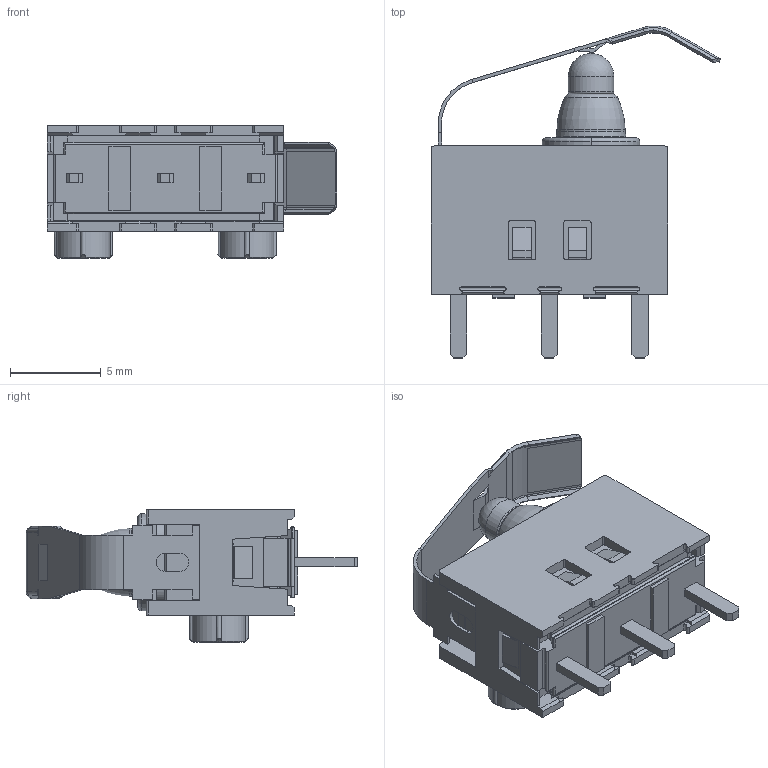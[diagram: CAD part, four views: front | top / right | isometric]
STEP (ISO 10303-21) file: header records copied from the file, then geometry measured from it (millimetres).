
FILE_DESCRIPTION (( 'STEP AP214' ), '1' );
FILE_NAME ('SPVQ370300.STEP', '2011-03-22T00:40:02', ( '' ), ( '' ), 'SwSTEP 2.0', 'SolidWorks 2007', '' );
FILE_SCHEMA (( 'AUTOMOTIVE_DESIGN' ));
Length unit declared in the file: millimetre
Products named in the file (1): SPVQ370300
Bounding box: 15.91 x 18.26 x 7.3 mm (x, y, z)
Volume: 636.2 mm3; surface area: 1232.1 mm2
Topology: 1 solids, 1 shells, 507 faces, 1420 edges, 914 vertices
Faces by surface type: plane 308, cylinder 152, torus 22, cone 17, bspline 6, sphere 2
Entity records: 22000 total; most frequent: CARTESIAN_POINT 3167, ORIENTED_EDGE 2832, DIRECTION 2711, EDGE_CURVE 1416, VECTOR 1027, LINE 1027, VERTEX_POINT 912, AXIS2_PLACEMENT_3D 842
